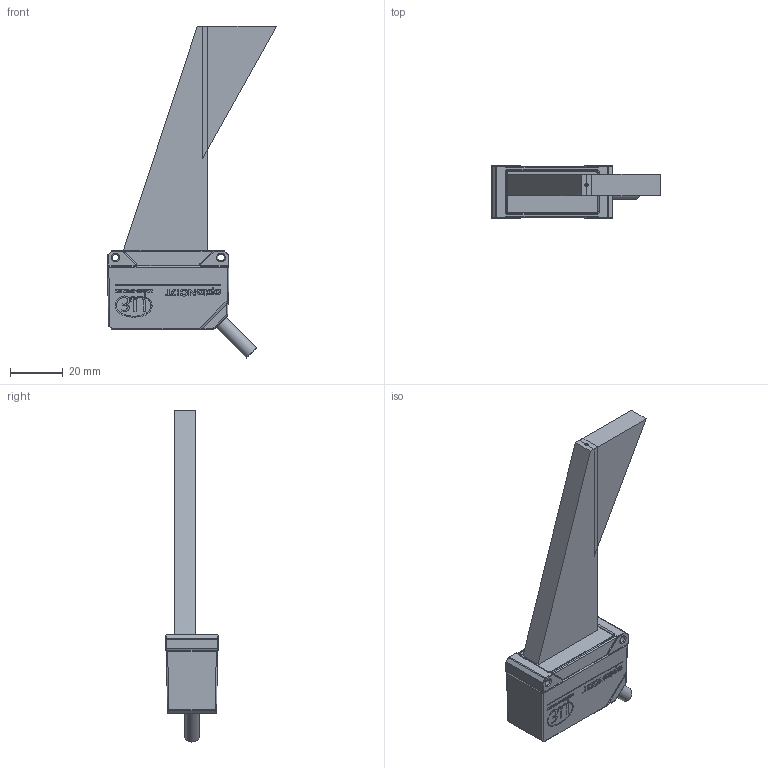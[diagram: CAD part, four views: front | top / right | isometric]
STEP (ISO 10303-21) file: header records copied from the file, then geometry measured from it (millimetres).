
FILE_DESCRIPTION (( 'STEP AP214' ), '1' );
FILE_NAME ('ILD1x20-50_2.step', '2025-11-05T09:36:58', ( '' ), ( '' ), 'SwSTEP 2.0', 'SolidWorks 2022', '' );
FILE_SCHEMA (( 'AUTOMOTIVE_DESIGN' ));
Length unit declared in the file: millimetre
Products named in the file (1): ILD1x20-50_2
Bounding box: 63.99 x 20 x 125.71 mm (x, y, z)
Volume: 43151.6 mm3; surface area: 16993.8 mm2
Topology: 10 solids, 10 shells, 2119 faces, 5577 edges, 3597 vertices
Faces by surface type: bspline 1001, plane 905, cylinder 144, torus 26, cone 23, sphere 20
Full cylindrical faces by diameter (mm): 0.7 x1, 0.8 x1, 1.2 x1, 1.6 x2, 2.4 x1, 2.5 x2, 3 x2, 5.4 x1, 7.5 x1, 8 x1
Entity records: 88894 total; most frequent: CARTESIAN_POINT 41456, ORIENTED_EDGE 10954, DIRECTION 6000, EDGE_CURVE 5477, VERTEX_POINT 3576, VECTOR 3100, LINE 3100, EDGE_LOOP 2327
